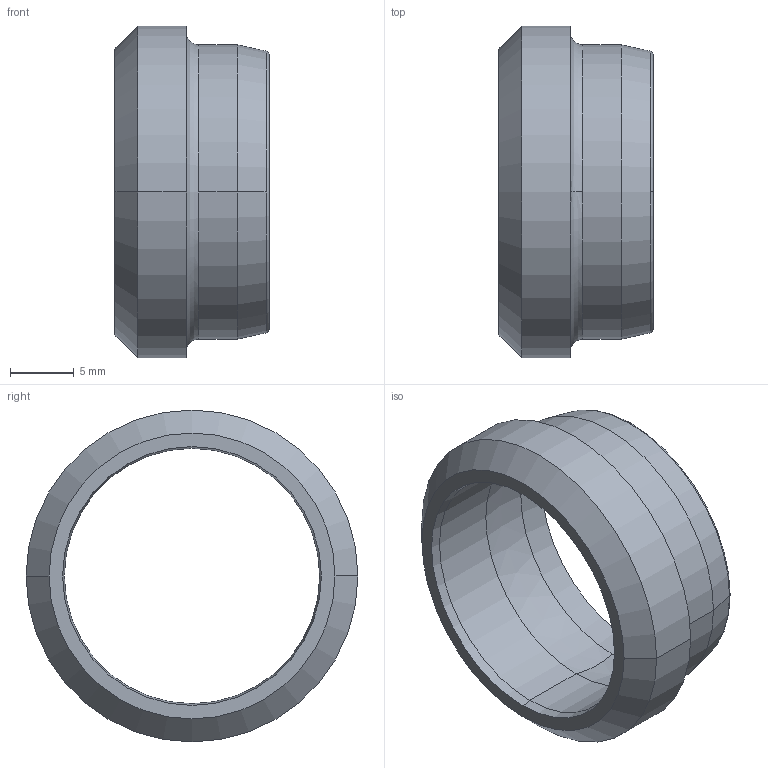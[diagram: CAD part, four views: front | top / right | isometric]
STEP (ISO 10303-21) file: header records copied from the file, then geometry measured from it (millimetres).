
FILE_DESCRIPTION((''),'2;1');
FILE_NAME('100120.stp','2006-03-06T15:06:09',('Dario Falcomer'),('CAST S.p.A.'),'AutoCAD STEP 2000i','AutoCAD 2000i',', , ');
FILE_SCHEMA(('CONFIG_CONTROL_DESIGN'));
Length unit declared in the file: millimetre
Products named in the file (2): 100120.0; 1001ESTERNO#0
Assembly tree (1 placements, depth 2):
  100120.0
    1001ESTERNO#0
Bounding box: 12.07 x 26 x 26 mm (x, y, z)
Volume: 1622.9 mm3; surface area: 1983.8 mm2
Topology: 1 solids, 1 shells, 28 faces, 67 edges, 43 vertices
Faces by surface type: bspline 8, cone 8, cylinder 6, plane 4, torus 2
Entity records: 1241 total; most frequent: CARTESIAN_POINT 456, DIRECTION 164, ORIENTED_EDGE 134, AXIS2_PLACEMENT_3D 75, EDGE_CURVE 67, CIRCLE 53, VERTEX_POINT 43, EDGE_LOOP 32
